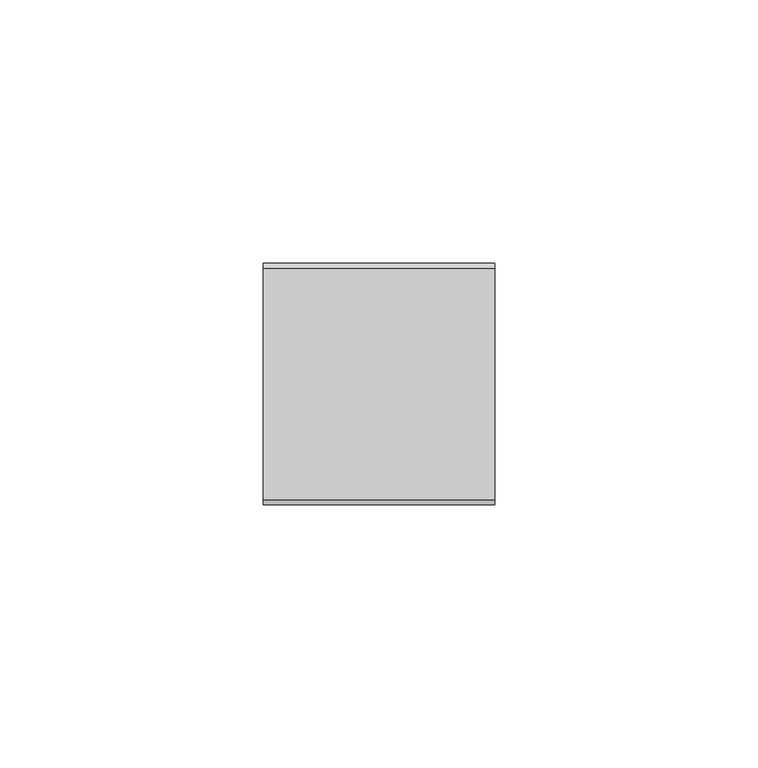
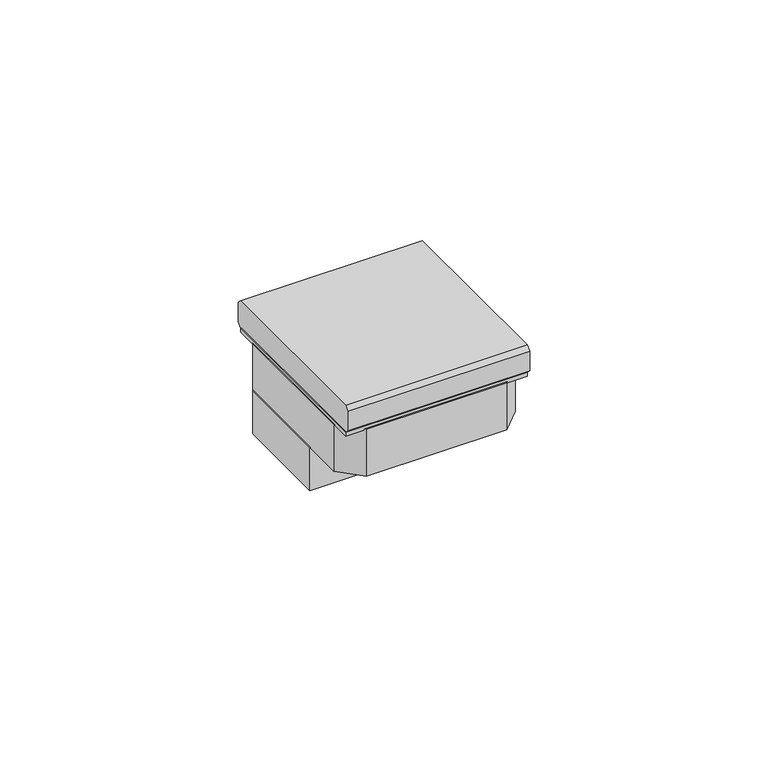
"""IFC4 building model written with IfcOpenShell, lengths in millimetres: proxy geometry, L4040 LL Pulsante NO Portanome : L4040 LL Pulsante NO portanome."""

from ifc_helpers import new_model, si_unit, frame, origin, origin_with_axes, place, context, project, spatial, polyline, outline, extrude, source, transform, mapped, element, save


def electrical_fixtures_95e28e94(model_context):
    return source(origin(), model_context, "Body", "SweptSolid", [
        extrude(outline(polyline([(-22.0, -7.0), (-22.0, 17.0), (-20.0, 19.0), (20.0, 19.0), (22.0, 17.0), (22.0, -7.0), (-22.0, -7.0)])), frame((0.0, 0.0, -23.0), z_axis=(0.0, 0.0, 1.0), x_axis=(1.0, 0.0, 0.0)), (0.0, 0.0, 1.0), 11.0),
        extrude(outline(polyline([(22.0, -17.0), (17.0, -22.0), (-17.0, -22.0), (-22.0, -17.0), (-22.0, 17.0), (-17.0, 22.0), (17.0, 22.0), (22.0, 17.0), (22.0, -17.0)])), frame((0.0, 0.0, -12.0), z_axis=(0.0, 0.0, 1.0), x_axis=(1.0, 0.0, 0.0)), (0.0, 0.0, 1.0), 12.0),
        extrude(outline(polyline([(22.0, -22.0), (-22.0, -22.0), (-22.0, 22.0), (22.0, 22.0), (22.0, -22.0)])), origin_with_axes(), (0.0, 0.0, 1.0), 1.0),
        extrude(outline(polyline([(22.0, 1.0), (-22.0, 1.0), (-22.9899495, 1.9899495), (-22.9899495, 6.9899495), (-22.0, 7.979899), (22.0, 7.979899), (22.9899495, 6.9899495), (22.9899495, 1.9899495), (22.0, 1.0)])), frame((-22.0, 0.0, 0.0), z_axis=(1.0, 0.0, 0.0), x_axis=(0.0, 1.0, 0.0)), (0.0, 0.0, 1.0), 44.0),
    ])


if __name__ == "__main__":
    model = new_model("IFC4")
    model_context = context("Model", 3, world=origin())
    ifc_project = project(units=[si_unit("LENGTHUNIT", "METRE", prefix="MILLI")], contexts=[model_context])
    site = spatial("IfcSite", under=ifc_project)
    building = spatial("IfcBuilding", under=site)
    placement = place(None, origin())
    electrical_fixtures_shape = electrical_fixtures_95e28e94(model_context)
    element("IfcBuildingElementProxy", 1, Name="L4040 LL Pulsante NO Portanome : L4040 LL Pulsante NO portanome", ObjectType="L4040 LL Pulsante NO Portanome : L4040 LL Pulsante NO portanome", at=placement, inside=building, context=model_context, shape_type="MappedRepresentation", body=[
        mapped(electrical_fixtures_shape, transform((0.0, 0.0, 0.0), x_axis=(1.0, 0.0, 0.0), y_axis=(0.0, 1.0, 0.0), z_axis=(0.0, 0.0, 1.0))),
    ])
    save(model, "model.ifc")
